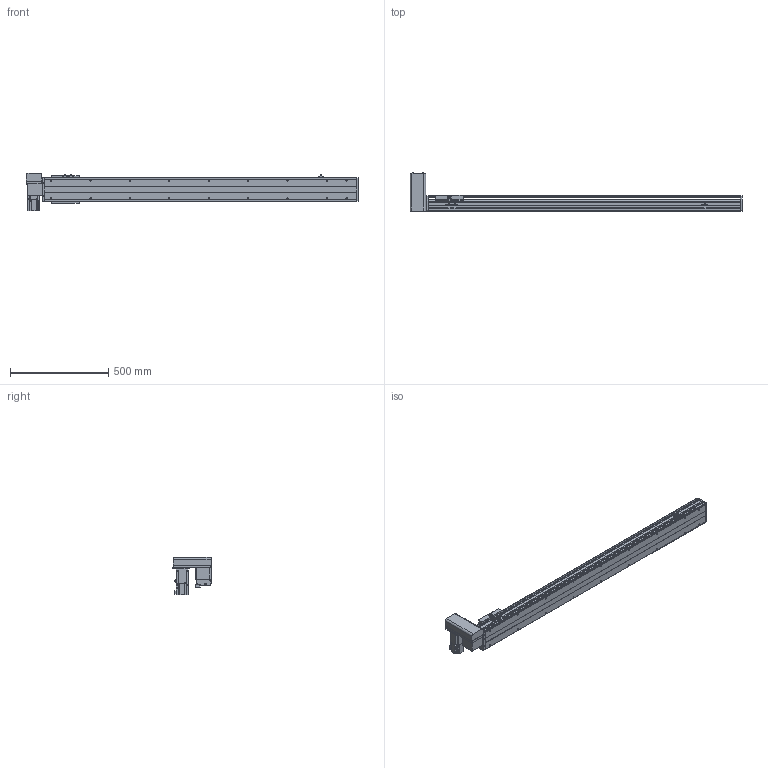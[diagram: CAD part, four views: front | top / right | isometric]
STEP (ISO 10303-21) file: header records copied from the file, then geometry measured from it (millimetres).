
FILE_DESCRIPTION( ( 'STEP AP214' ), '1' );
FILE_NAME( 'x:/temp/worker_27/temp/exporttempdir_6708_234_qHA0W/format_0/PBS120-P40-S1300-RU-T40-C1-N(0).stp', '2022-06-06T00:49:54', ( 'License CC BY-ND 4.0' ), ( 'CADENAS' ), ' ', 'PARTsolutions', ' ' );
FILE_SCHEMA( ( 'AUTOMOTIVE_DESIGN { 1 0 10303 214 1 1 1 1 }' ) );
Length unit declared in the file: millimetre
Products named in the file (7): PBS120-P40-S1300-RU-T40-C1-N(0); _PBS120-S1300()_body; _PBS120T-RU_motors; _T40-p1; _PBS120_sliser; _PBS120_plant; _PBS120_sensor
Assembly tree (8 placements, depth 2):
  PBS120-P40-S1300-RU-T40-C1-N(0)
    _PBS120-S1300()_body
    _PBS120T-RU_motors
    _T40-p1
    _PBS120_sliser
    _PBS120_plant
    _PBS120_sensor  x3
Bounding box: 1686 x 198 x 189.7 mm (x, y, z)
Volume: 6937675.9 mm3; surface area: 1379269.7 mm2
Topology: 8 solids, 8 shells, 834 faces, 2166 edges, 1393 vertices
Faces by surface type: plane 551, cylinder 231, cone 50, torus 2
Full cylindrical faces by diameter (mm): 2.459 x6, 3.242 x4, 4 x2, 4.134 x4, 4.5 x10, 4.917 x22, 5.5 x11, 6 x2, 6.6 x1, 7 x2, 8.5 x4, 9 x4, 12 x1, 14 x1, 30 x2, 40 x1, 50 x2
Entity records: 27492 total; most frequent: DIRECTION 3764, CARTESIAN_POINT 3695, ORIENTED_EDGE 3514, EDGE_CURVE 1757, AXIS2_PLACEMENT_3D 1268, LINE 1228, VECTOR 1228, VERTEX_POINT 1199
